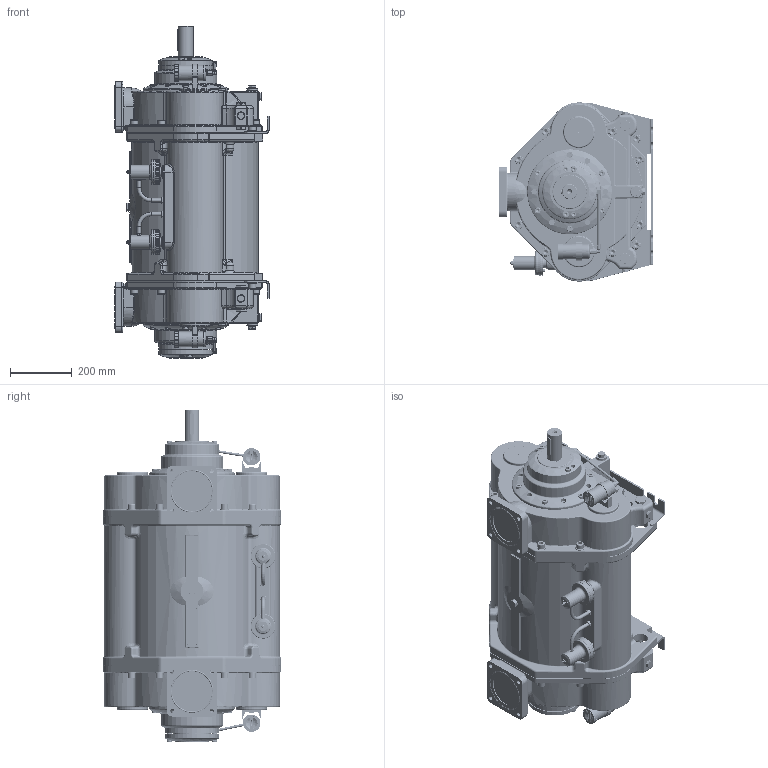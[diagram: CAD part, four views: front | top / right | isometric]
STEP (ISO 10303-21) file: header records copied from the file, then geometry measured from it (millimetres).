
FILE_DESCRIPTION(/* description */ (''),/* implementation_level */ '2;1');
FILE_NAME(/* name */ '1700034C.stp',/* time_stamp */ '2025-09-23T13:19:10+02:00',/* author */ ('JJ'),/* organization */ (''),/* preprocessor_version */ 'ST-DEVELOPER v20',/* originating_system */ 'Autodesk Inventor 2025',/* authorisation */ '');
FILE_SCHEMA (('AUTOMOTIVE_DESIGN { 1 0 10303 214 3 1 1 }'));
Length unit declared in the file: millimetre
Products named in the file (1): 1700034
Bounding box: 499.1 x 579 x 1074 mm (x, y, z)
Volume: 133688632.2 mm3; surface area: 2515434.2 mm2
Topology: 7 solids, 7 shells, 4442 faces, 11232 edges, 7138 vertices
Faces by surface type: plane 1864, cylinder 1052, bspline 810, cone 355, torus 325, sphere 36
Full cylindrical faces by diameter (mm): 1.5 x16, 3.2 x4, 3.3 x4, 3.5 x2, 4 x2, 4.134 x4, 4.92 x8, 5 x2, 5.3 x2, 6 x10, 6.1 x2, 6.4 x2, 8 x10, 8.5 x2, 8.57 x2, 9.2 x2, 9.7 x2, 9.8 x4, 10 x14, 10.106 x12, 10.11 x1, 12 x8, 13 x6, 13.5 x4, 13.835 x8, 14.95 x2, 15 x4, 16.662 x2, 17.5 x12, 18 x20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
Entity records: 149665 total; most frequent: CARTESIAN_POINT 44407, ORIENTED_EDGE 22246, DIRECTION 19167, EDGE_CURVE 11123, VERTEX_POINT 7138, AXIS2_PLACEMENT_3D 6999, LINE 5169, VECTOR 5169
